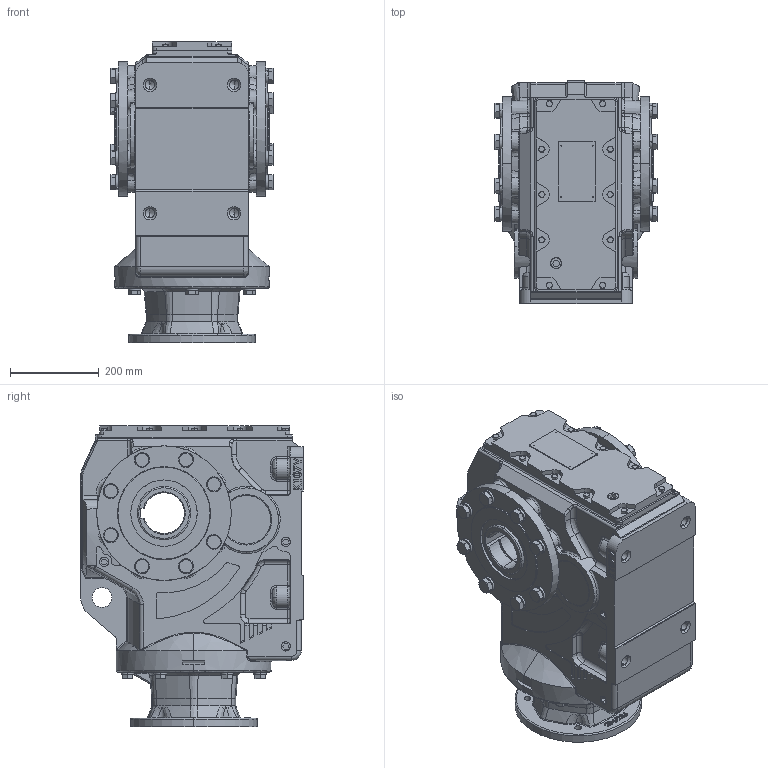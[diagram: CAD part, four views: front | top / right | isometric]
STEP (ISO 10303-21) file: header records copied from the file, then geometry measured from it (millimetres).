
FILE_DESCRIPTION (( 'STEP AP203' ), '1' );
FILE_NAME ('KAN107-284T.STEP', '2023-02-15T07:26:33', ( '' ), ( '' ), 'SwSTEP 2.0', 'SolidWorks 2012', '' );
FILE_SCHEMA (( 'CONFIG_CONTROL_DESIGN' ));
Products named in the file (1): KAN107-284T
Bounding box: 369.2 x 503.5 x 682 mm (x, y, z)
Volume: 68387076 mm3; surface area: 1753802.4 mm2
Topology: 1 solids, 60 shells, 2769 faces, 6853 edges, 4252 vertices
Faces by surface type: plane 1091, cylinder 759, cone 464, bspline 455
Entity records: 107278 total; most frequent: CARTESIAN_POINT 44252, ORIENTED_EDGE 13564, DIRECTION 12609, EDGE_CURVE 6782, AXIS2_PLACEMENT_3D 4792, VERTEX_POINT 4252, LINE 3025, VECTOR 3025
